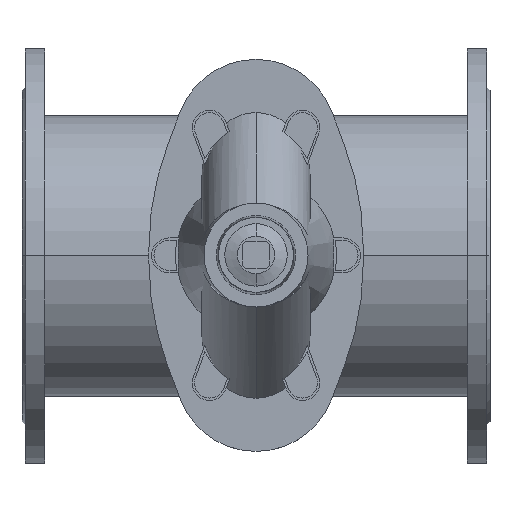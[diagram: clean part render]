
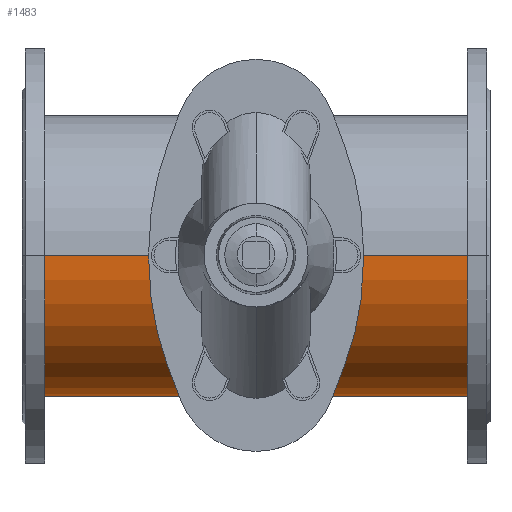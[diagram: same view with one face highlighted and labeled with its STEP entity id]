
A CAD part, top view. The second image highlights one B-rep face of the part: STEP entity #1483.
In plain terms, the highlighted cylindrical face has radius 135 mm (diameter 270 mm), a partial arc.
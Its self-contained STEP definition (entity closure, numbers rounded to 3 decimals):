
#1483=ADVANCED_FACE('',(#2988),#2989,.T.);
#2988=FACE_OUTER_BOUND('',#4925,.T.);
#2989=CYLINDRICAL_SURFACE('',#4926,135.0);
#4925=EDGE_LOOP('',(#7777,#7778,#7779,#7780));
#4926=AXIS2_PLACEMENT_3D('',#7781,#7782,#7783);
#7777=ORIENTED_EDGE('',*,*,#10636,.F.);
#7778=ORIENTED_EDGE('',*,*,#11219,.T.);
#7779=ORIENTED_EDGE('',*,*,#10638,.F.);
#7780=ORIENTED_EDGE('',*,*,#11365,.T.);
#7781=CARTESIAN_POINT('',(47.0,0.0,0.));
#7782=DIRECTION('',(1.0,0.0,0.));
#7783=DIRECTION('',(0.,0.0,1.0));
#10636=EDGE_CURVE('',#12619,#12620,#12621,.T.);
#10638=EDGE_CURVE('',#12622,#12624,#12625,.T.);
#11219=EDGE_CURVE('',#12619,#12624,#13552,.T.);
#11365=EDGE_CURVE('',#12622,#12620,#13757,.T.);
#12619=VERTEX_POINT('',#15297);
#12620=VERTEX_POINT('',#15298);
#12621=LINE('',#15299,#15300);
#12622=VERTEX_POINT('',#15301);
#12624=VERTEX_POINT('',#15303);
#12625=LINE('',#15304,#15305);
#13552=CIRCLE('',#16484,135.0);
#13757=CIRCLE('',#16745,135.0);
#15297=CARTESIAN_POINT('',(47.0,0.0,135.0));
#15298=CARTESIAN_POINT('',(453.0,0.0,135.0));
#15299=CARTESIAN_POINT('',(47.0,0.,135.0));
#15300=VECTOR('',#18320,1.0);
#15301=CARTESIAN_POINT('',(453.0,0.,-135.0));
#15303=CARTESIAN_POINT('',(47.0,0.,-135.0));
#15304=CARTESIAN_POINT('',(47.0,0.,-135.0));
#15305=VECTOR('',#18324,1.0);
#16484=AXIS2_PLACEMENT_3D('',#19141,#19142,#19143);
#16745=AXIS2_PLACEMENT_3D('',#19350,#19351,#19352);
#18320=DIRECTION('',(1.0,0.0,0.));
#18324=DIRECTION('',(-1.0,-0.0,0.));
#19141=CARTESIAN_POINT('',(47.0,0.0,0.));
#19142=DIRECTION('',(1.0,0.0,0.));
#19143=DIRECTION('',(0.,0.0,1.0));
#19350=CARTESIAN_POINT('',(453.0,0.0,0.));
#19351=DIRECTION('',(-1.0,0.0,0.));
#19352=DIRECTION('',(0.,0.0,1.0));
